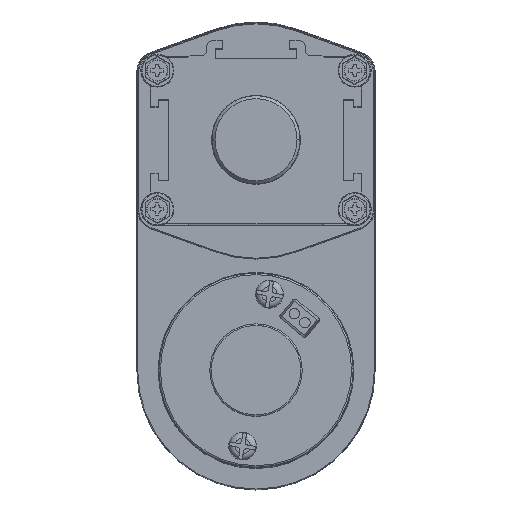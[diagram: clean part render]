
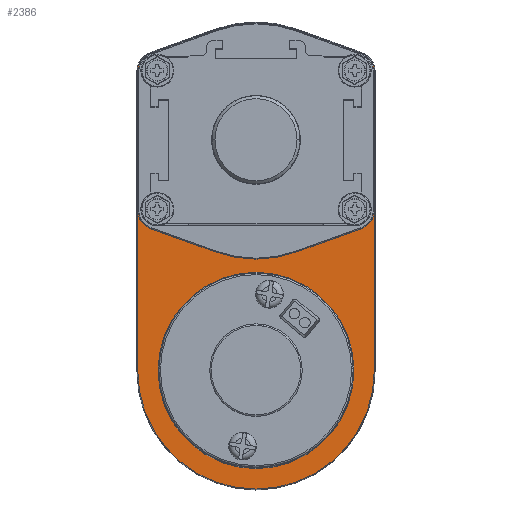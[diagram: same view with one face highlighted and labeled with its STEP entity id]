
A CAD part, top view. The second image highlights one B-rep face of the part: STEP entity #2386.
In plain terms, the highlighted planar face has unit normal (0, 0, 1).
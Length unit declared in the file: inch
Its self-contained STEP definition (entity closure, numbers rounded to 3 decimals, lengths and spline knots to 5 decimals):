
#2386=ADVANCED_FACE('NONE',(#6322,#6323,#6324),#6325,.T.);
#6322=FACE_OUTER_BOUND('',#12358,.T.);
#6323=FACE_BOUND('',#12359,.T.);
#6324=FACE_BOUND('',#12360,.T.);
#6325=PLANE('',#12361);
#12358=EDGE_LOOP('',(#23083,#23084,#23085,#23086,#23087,#23088,#23089,#23090));
#12359=EDGE_LOOP('',(#23091,#23092,#23093,#23094,#23095,#23096,#23097,#23098,#23099,#23100,#23101,#23102,#23103));
#12360=EDGE_LOOP('',(#23104,#23105));
#12361=AXIS2_PLACEMENT_3D('',#23106,#23107,#23108);
#23083=ORIENTED_EDGE('',*,*,#38017,.T.);
#23084=ORIENTED_EDGE('',*,*,#38018,.T.);
#23085=ORIENTED_EDGE('',*,*,#38019,.T.);
#23086=ORIENTED_EDGE('',*,*,#38020,.T.);
#23087=ORIENTED_EDGE('',*,*,#38021,.T.);
#23088=ORIENTED_EDGE('',*,*,#38022,.T.);
#23089=ORIENTED_EDGE('',*,*,#37934,.T.);
#23090=ORIENTED_EDGE('',*,*,#38023,.T.);
#23091=ORIENTED_EDGE('',*,*,#38024,.F.);
#23092=ORIENTED_EDGE('',*,*,#38025,.F.);
#23093=ORIENTED_EDGE('',*,*,#38026,.T.);
#23094=ORIENTED_EDGE('',*,*,#38027,.T.);
#23095=ORIENTED_EDGE('',*,*,#38028,.T.);
#23096=ORIENTED_EDGE('',*,*,#38029,.T.);
#23097=ORIENTED_EDGE('',*,*,#38030,.T.);
#23098=ORIENTED_EDGE('',*,*,#38031,.T.);
#23099=ORIENTED_EDGE('',*,*,#38032,.T.);
#23100=ORIENTED_EDGE('',*,*,#36749,.T.);
#23101=ORIENTED_EDGE('',*,*,#38033,.F.);
#23102=ORIENTED_EDGE('',*,*,#38034,.F.);
#23103=ORIENTED_EDGE('',*,*,#38035,.F.);
#23104=ORIENTED_EDGE('',*,*,#38036,.F.);
#23105=ORIENTED_EDGE('',*,*,#36770,.F.);
#23106=CARTESIAN_POINT('',(-0.17513,0.61323,14.8368));
#23107=DIRECTION('',(0.0,0.0,1.0));
#23108=DIRECTION('',(1.0,0.0,0.0));
#36749=EDGE_CURVE('NONE',#43131,#43132,#43133,.T.);
#36770=EDGE_CURVE('NONE',#43167,#43170,#43171,.T.);
#37934=EDGE_CURVE('NONE',#45195,#45199,#45201,.T.);
#38017=EDGE_CURVE('NONE',#45331,#45332,#45333,.T.);
#38018=EDGE_CURVE('NONE',#45332,#45334,#45335,.T.);
#38019=EDGE_CURVE('NONE',#45334,#45336,#45337,.T.);
#38020=EDGE_CURVE('NONE',#45336,#45338,#45339,.T.);
#38021=EDGE_CURVE('NONE',#45338,#45340,#45341,.T.);
#38022=EDGE_CURVE('NONE',#45340,#45195,#45342,.T.);
#38023=EDGE_CURVE('NONE',#45199,#45331,#45343,.T.);
#38024=EDGE_CURVE('NONE',#45344,#45345,#45346,.T.);
#38025=EDGE_CURVE('NONE',#45347,#45344,#45348,.T.);
#38026=EDGE_CURVE('NONE',#45347,#45349,#45350,.T.);
#38027=EDGE_CURVE('NONE',#45349,#45351,#45352,.T.);
#38028=EDGE_CURVE('NONE',#45351,#45353,#45354,.T.);
#38029=EDGE_CURVE('NONE',#45353,#45355,#45356,.T.);
#38030=EDGE_CURVE('NONE',#45355,#45357,#45358,.T.);
#38031=EDGE_CURVE('NONE',#45357,#45359,#45360,.T.);
#38032=EDGE_CURVE('NONE',#45359,#43131,#45361,.T.);
#38033=EDGE_CURVE('NONE',#45362,#43132,#45363,.T.);
#38034=EDGE_CURVE('NONE',#45364,#45362,#45365,.T.);
#38035=EDGE_CURVE('NONE',#45345,#45364,#45366,.T.);
#38036=EDGE_CURVE('NONE',#43170,#43167,#45367,.T.);
#43131=VERTEX_POINT('NONE',#52470);
#43132=VERTEX_POINT('NONE',#52471);
#43133=LINE('',#52472,#52473);
#43167=VERTEX_POINT('NONE',#52516);
#43170=VERTEX_POINT('NONE',#52520);
#43171=CIRCLE('',#52521,1.25);
#45195=VERTEX_POINT('NONE',#56509);
#45199=VERTEX_POINT('NONE',#56514);
#45201=CIRCLE('',#56517,1.51086);
#45331=VERTEX_POINT('NONE',#56756);
#45332=VERTEX_POINT('NONE',#56757);
#45333=CIRCLE('',#56758,0.25102);
#45334=VERTEX_POINT('NONE',#56759);
#45335=LINE('',#56760,#56761);
#45336=VERTEX_POINT('NONE',#56762);
#45337=CIRCLE('',#56763,1.51086);
#45338=VERTEX_POINT('NONE',#56764);
#45339=LINE('',#56765,#56766);
#45340=VERTEX_POINT('NONE',#56767);
#45341=CIRCLE('',#56768,0.25102);
#45342=LINE('',#56769,#56770);
#45343=LINE('',#56771,#56772);
#45344=VERTEX_POINT('NONE',#56773);
#45345=VERTEX_POINT('NONE',#56774);
#45346=LINE('',#56775,#56776);
#45347=VERTEX_POINT('NONE',#56777);
#45348=CIRCLE('',#56778,0.24785);
#45349=VERTEX_POINT('NONE',#56779);
#45350=LINE('',#56780,#56781);
#45351=VERTEX_POINT('NONE',#56782);
#45352=CIRCLE('',#56783,0.24785);
#45353=VERTEX_POINT('NONE',#56784);
#45354=LINE('',#56785,#56786);
#45355=VERTEX_POINT('NONE',#56787);
#45356=CIRCLE('',#56788,1.50769);
#45357=VERTEX_POINT('NONE',#56789);
#45358=CIRCLE('',#56790,1.50769);
#45359=VERTEX_POINT('NONE',#56791);
#45360=LINE('',#56792,#56793);
#45361=CIRCLE('',#56794,0.24785);
#45362=VERTEX_POINT('NONE',#56795);
#45363=CIRCLE('',#56796,0.24785);
#45364=VERTEX_POINT('NONE',#56797);
#45365=LINE('',#56798,#56799);
#45366=CIRCLE('',#56800,1.50769);
#45367=CIRCLE('',#56801,1.25);
#52470=CARTESIAN_POINT('',(1.05723,2.96559,14.8368));
#52471=CARTESIAN_POINT('',(1.05723,1.19394,14.8368));
#52472=CARTESIAN_POINT('',(1.05723,2.96559,14.8368));
#52473=VECTOR('',#71943,39.37008);
#52516=CARTESIAN_POINT('',(-0.2334,0.3777,14.8368));
#52520=CARTESIAN_POINT('',(-0.66752,-2.08432,14.8368));
#52521=AXIS2_PLACEMENT_3D('',#71972,#71973,#71974);
#56509=CARTESIAN_POINT('',(-1.96132,-0.85331,14.8368));
#56514=CARTESIAN_POINT('',(1.06041,-0.85331,14.8368));
#56517=AXIS2_PLACEMENT_3D('',#73422,#73423,#73424);
#56756=CARTESIAN_POINT('',(1.06041,2.96559,14.8368));
#56757=CARTESIAN_POINT('',(0.89432,3.20181,14.8368));
#56758=AXIS2_PLACEMENT_3D('',#73518,#73519,#73520);
#56759=CARTESIAN_POINT('',(0.06073,3.50152,14.8368));
#56760=CARTESIAN_POINT('',(0.06073,3.50152,14.8368));
#56761=VECTOR('',#73521,39.37008);
#56762=CARTESIAN_POINT('',(-0.96165,3.50152,14.8368));
#56763=AXIS2_PLACEMENT_3D('',#73522,#73523,#73524);
#56764=CARTESIAN_POINT('',(-1.79523,3.20181,14.8368));
#56765=CARTESIAN_POINT('',(-1.79523,3.20181,14.8368));
#56766=VECTOR('',#73525,39.37008);
#56767=CARTESIAN_POINT('',(-1.96132,2.96559,14.8368));
#56768=AXIS2_PLACEMENT_3D('',#73526,#73527,#73528);
#56769=CARTESIAN_POINT('',(-1.96132,-0.85331,14.8368));
#56770=VECTOR('',#73529,39.37008);
#56771=CARTESIAN_POINT('',(1.06041,2.96559,14.8368));
#56772=VECTOR('',#73530,39.37008);
#56773=CARTESIAN_POINT('',(-1.79416,0.96071,14.8368));
#56774=CARTESIAN_POINT('',(-0.96057,0.66099,14.8368));
#56775=CARTESIAN_POINT('',(-0.24983,0.40545,14.8368));
#56776=VECTOR('',#73531,39.37008);
#56777=CARTESIAN_POINT('',(-1.95815,1.19394,14.8368));
#56778=AXIS2_PLACEMENT_3D('',#73532,#73533,#73534);
#56779=CARTESIAN_POINT('',(-1.95815,2.96559,14.8368));
#56780=CARTESIAN_POINT('',(-1.95815,1.19394,14.8368));
#56781=VECTOR('',#73535,39.37008);
#56782=CARTESIAN_POINT('',(-1.79416,3.19882,14.8368));
#56783=AXIS2_PLACEMENT_3D('',#73536,#73537,#73538);
#56784=CARTESIAN_POINT('',(-0.96057,3.49853,14.8368));
#56785=CARTESIAN_POINT('',(-1.79416,3.19882,14.8368));
#56786=VECTOR('',#73539,39.37008);
#56787=CARTESIAN_POINT('',(-0.45046,3.58745,14.8368));
#56788=AXIS2_PLACEMENT_3D('',#73540,#73541,#73542);
#56789=CARTESIAN_POINT('',(0.05966,3.49853,14.8368));
#56790=AXIS2_PLACEMENT_3D('',#73543,#73544,#73545);
#56791=CARTESIAN_POINT('',(0.89324,3.19882,14.8368));
#56792=CARTESIAN_POINT('',(0.05966,3.49853,14.8368));
#56793=VECTOR('',#73546,39.37008);
#56794=AXIS2_PLACEMENT_3D('',#73547,#73548,#73549);
#56795=CARTESIAN_POINT('',(0.89324,0.96071,14.8368));
#56796=AXIS2_PLACEMENT_3D('',#73550,#73551,#73552);
#56797=CARTESIAN_POINT('',(0.05966,0.66099,14.8368));
#56798=CARTESIAN_POINT('',(-0.16346,0.58077,14.8368));
#56799=VECTOR('',#73553,39.37008);
#56800=AXIS2_PLACEMENT_3D('',#73554,#73555,#73556);
#56801=AXIS2_PLACEMENT_3D('',#73557,#73558,#73559);
#71943=DIRECTION('',(0.,-1.0,0.0));
#71972=CARTESIAN_POINT('',(-0.45046,-0.85331,14.8368));
#71973=DIRECTION('',(0.0,0.0,1.0));
#71974=DIRECTION('',(1.0,0.0,0.0));
#73422=CARTESIAN_POINT('',(-0.45046,-0.85331,14.8368));
#73423=DIRECTION('',(0.0,0.0,1.0));
#73424=DIRECTION('',(1.0,0.0,0.0));
#73518=CARTESIAN_POINT('',(0.80938,2.96559,14.8368));
#73519=DIRECTION('',(0.0,0.0,1.0));
#73520=DIRECTION('',(1.0,0.0,0.0));
#73521=DIRECTION('',(-0.941,0.338,0.0));
#73522=CARTESIAN_POINT('',(-0.45046,2.07976,14.8368));
#73523=DIRECTION('',(0.0,0.0,1.0));
#73524=DIRECTION('',(1.0,0.0,0.0));
#73525=DIRECTION('',(-0.941,-0.338,0.0));
#73526=CARTESIAN_POINT('',(-1.7103,2.96559,14.8368));
#73527=DIRECTION('',(0.0,0.0,1.0));
#73528=DIRECTION('',(1.0,0.0,0.0));
#73529=DIRECTION('',(0.0,-1.0,0.0));
#73530=DIRECTION('',(0.0,1.0,0.0));
#73531=DIRECTION('',(0.941,-0.338,0.0));
#73532=CARTESIAN_POINT('',(-1.7103,1.19394,14.8368));
#73533=DIRECTION('',(0.0,0.0,1.0));
#73534=DIRECTION('',(1.0,0.0,0.0));
#73535=DIRECTION('',(0.,1.0,0.0));
#73536=CARTESIAN_POINT('',(-1.7103,2.96559,14.8368));
#73537=DIRECTION('',(0.0,0.0,-1.0));
#73538=DIRECTION('',(1.0,0.,0.0));
#73539=DIRECTION('',(0.941,0.338,0.0));
#73540=CARTESIAN_POINT('',(-0.45046,2.07976,14.8368));
#73541=DIRECTION('',(0.0,0.0,-1.0));
#73542=DIRECTION('',(1.0,0.,0.0));
#73543=CARTESIAN_POINT('',(-0.45046,2.07976,14.8368));
#73544=DIRECTION('',(0.0,0.0,-1.0));
#73545=DIRECTION('',(1.0,0.,0.0));
#73546=DIRECTION('',(0.941,-0.338,0.0));
#73547=CARTESIAN_POINT('',(0.80938,2.96559,14.8368));
#73548=DIRECTION('',(0.0,0.0,-1.0));
#73549=DIRECTION('',(1.0,0.,0.0));
#73550=CARTESIAN_POINT('',(0.80938,1.19394,14.8368));
#73551=DIRECTION('',(0.0,0.0,1.0));
#73552=DIRECTION('',(1.0,0.0,0.0));
#73553=DIRECTION('',(0.941,0.338,0.0));
#73554=CARTESIAN_POINT('',(-0.45046,2.07976,14.8368));
#73555=DIRECTION('',(0.0,0.0,1.0));
#73556=DIRECTION('',(1.0,0.0,0.0));
#73557=CARTESIAN_POINT('',(-0.45046,-0.85331,14.8368));
#73558=DIRECTION('',(0.0,0.0,1.0));
#73559=DIRECTION('',(1.0,0.0,0.0));
